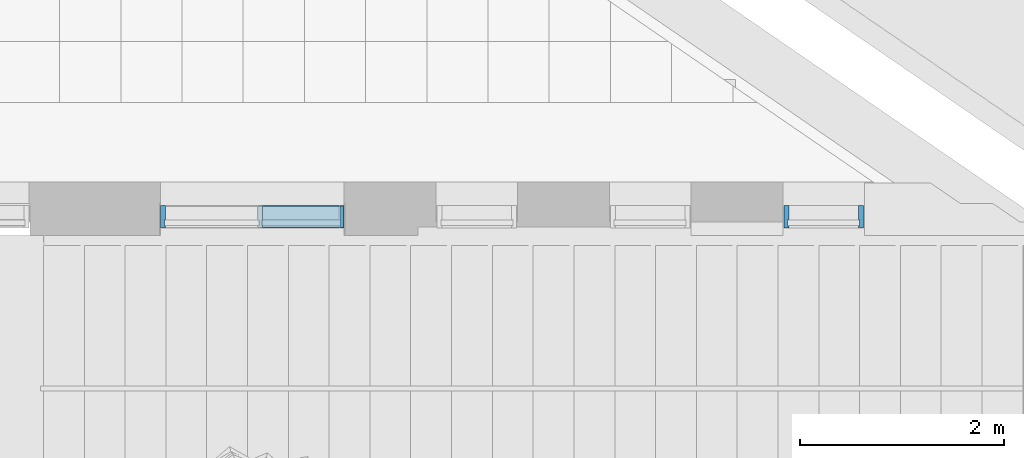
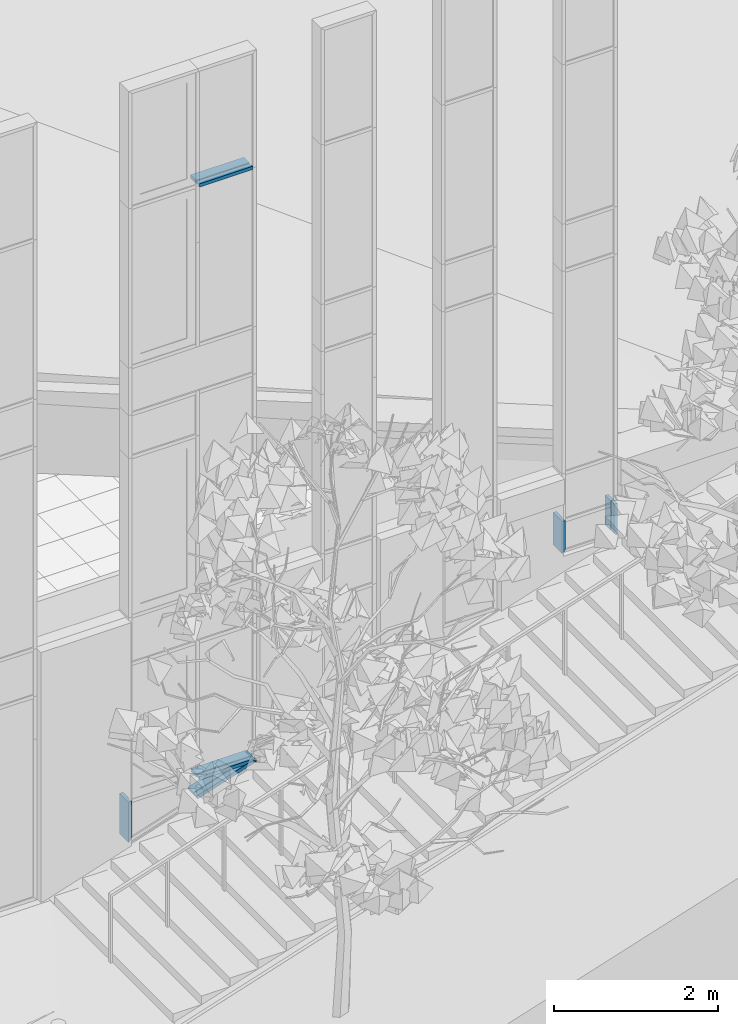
# One storey, part 92 of 246: 7 members, 2 elements without a shape of their own.
"""IFC2X3 building model written with IfcOpenShell, lengths in millimetres."""

from ifc_helpers import new_model, entity, si_unit, converted_unit, derived_unit, money_unit, direction, frame, origin_with_axes, place, context, subcontext, project, spatial, faceted_brep, material, type_object, element, aggregate, save


model = new_model("IFC2X3")

# Units and contexts
model_context = context("Model", 3, precision=0.01, world=origin_with_axes(), true_north=direction((0.0, 1.0)))
body_context = subcontext(model_context, "Body", "Model", "MODEL_VIEW")
ifc_project = project(units=[si_unit("LENGTHUNIT", "METRE", prefix="MILLI"), si_unit("AREAUNIT", "SQUARE_METRE"), si_unit("VOLUMEUNIT", "CUBIC_METRE"), converted_unit("PLANEANGLEUNIT", "DEGREE", entity("IfcPlaneAngleMeasure", 0.0174532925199), si_unit("PLANEANGLEUNIT", "RADIAN"), dimensions=[0, 0, 0, 0, 0, 0, 0]), si_unit("SOLIDANGLEUNIT", "STERADIAN"), money_unit("EUR"), converted_unit("TIMEUNIT", "Year", entity("IfcTimeMeasure", 31556926.0), si_unit("TIMEUNIT", "SECOND"), dimensions=[0, 0, 1, 0, 0, 0, 0]), si_unit("MASSUNIT", "GRAM", prefix="KILO"), si_unit("THERMODYNAMICTEMPERATUREUNIT", "DEGREE_CELSIUS"), si_unit("LUMINOUSINTENSITYUNIT", "LUMEN"), si_unit("ENERGYUNIT", "JOULE", prefix="MEGA"), derived_unit("THERMALCONDUCTANCEUNIT", [(si_unit("POWERUNIT", "WATT"), 1), (si_unit("LENGTHUNIT", "METRE"), -1), (si_unit("THERMODYNAMICTEMPERATUREUNIT", "KELVIN"), -1)]), derived_unit("SPECIFICHEATCAPACITYUNIT", [(si_unit("ENERGYUNIT", "JOULE"), 1), (si_unit("MASSUNIT", "GRAM", prefix="KILO"), -1), (si_unit("THERMODYNAMICTEMPERATUREUNIT", "KELVIN"), -1)]), derived_unit("MASSDENSITYUNIT", [(si_unit("MASSUNIT", "GRAM", prefix="KILO"), 1), (si_unit("VOLUMEUNIT", "CUBIC_METRE"), -1)])], contexts=[model_context])

# Site, building, storey
site_placement = place(None, origin_with_axes())
site = spatial("IfcSite", under=ifc_project, at=site_placement, Name="L.Koidula tn 11b", CompositionType="ELEMENT")
building_placement = place(site_placement, origin_with_axes())
building = spatial("IfcBuilding", under=site, at=building_placement, Name="Rakvere Riigigümnaasium", CompositionType="ELEMENT")
storey_placement = place(building_placement, origin_with_axes())
storey = spatial("IfcBuildingStorey", under=building, at=storey_placement, Name="1.korrus 0,00", CompositionType="ELEMENT", Elevation=0.0)

# Curtain wall, member
curtain_wall_type = type_object("IfcCurtainWallType", Name="Curtain Wall Type", PredefinedType="NOTDEFINED")
curtain_wall_1_placement = place(storey_placement, frame((96030.936158, 5111.45334637, 394.620798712), z_axis=(0.0, 0.0, 1.0), x_axis=(1.0, 0.0, 0.0)))
curtain_wall_1 = element("IfcCurtainWall", 1, at=curtain_wall_1_placement, inside=storey, type_object=curtain_wall_type, Name="KLF-05-2C")
ifc_material = material(Name="Alumiiniumprofiil (RAL 7021)")
member_type_1 = type_object("IfcMemberType", Name="Transom Frame 50 x 222", PredefinedType="MULLION")
member_1_placement = place(curtain_wall_1_placement, frame((644.063960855, 0.0, 9445.37919319), z_axis=(1.0, 0.0, 0.0), x_axis=(0.0, 0.0, 1.0)))
member_1 = element("IfcMember", 2, at=member_1_placement, type_object=member_type_1, material=ifc_material, Name="KLF-05-9C-Profiilid", ObjectType="MULLION", context=body_context, shape_type="Brep", body=[
    faceted_brep([(-12.0, -32.5, 775.000113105), (-25.0, -32.5, 775.000113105), (-25.0, -169.0, 775.000112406), (25.0, -169.0, 775.000112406), (25.0, -32.5, 775.000113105), (12.0, -32.5, 775.000113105), (12.0, 32.5, 775.000113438), (25.0, 32.5, 775.000113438), (25.0, 53.0, 775.000113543), (-25.0, 53.0, 775.000113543), (-25.0, 32.5, 775.000113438), (-12.0, 32.5, 775.000113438), (-12.0, -32.5, 25.0), (-25.0, -32.5, 25.0), (-25.0, -169.0, 25.0), (25.0, -169.0, 25.0), (25.0, -32.5, 25.0), (12.0, -32.5, 25.0), (12.0, 32.5, 25.0), (25.0, 32.5, 25.0), (25.0, 53.0, 25.0), (-25.0, 53.0, 25.0), (-25.0, 32.5, 25.0), (-12.0, 32.5, 25.0)], [[[0, 1, 2, 3, 4, 5, 6, 7, 8, 9, 10, 11]], [[1, 0, 12, 13]], [[1, 13, 14, 2]], [[2, 14, 15, 3]], [[4, 3, 15, 16]], [[4, 16, 17, 5]], [[5, 17, 18, 6]], [[7, 6, 18, 19]], [[19, 20, 8, 7]], [[8, 20, 21, 9]], [[22, 10, 9, 21]], [[11, 10, 22, 23]], [[0, 11, 23, 12]], [[23, 22, 21, 20, 19, 18, 17, 16, 15, 14, 13, 12]]]),
])

# Curtain wall, members
curtain_wall_2_placement = place(storey_placement, frame((102199.946081, 5111.65323731, 2560.0), z_axis=(0.0, 0.0, 1.0), x_axis=(1.0, 0.0, 0.0)))
curtain_wall_2 = element("IfcCurtainWall", 3, at=curtain_wall_2_placement, inside=storey, type_object=curtain_wall_type, Name="KLF-05-4A3")
member_type_2 = type_object("IfcMemberType", Name="Boundary Frame 50 x 222", PredefinedType="MULLION")
member_2_placement = place(curtain_wall_2_placement, frame((-389.999808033, 0.0451050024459, 485.0), z_axis=(0.0, 0.0, -1.0), x_axis=(0.999999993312, -0.00011565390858, 0.0)))
member_2 = element("IfcMember", 4, at=member_2_placement, type_object=member_type_2, material=ifc_material, Name="KLF-05-9A-Profiilid", ObjectType="MULLION", context=body_context, shape_type="Brep", body=[
    faceted_brep([(37.0, -32.5, 448.0), (37.0, 32.5, 448.0), (50.0, 32.5, 435.0), (50.0, 53.0, 435.0), (0.0, 53.0, 485.0), (0.0, -169.0, 485.0), (50.0, -169.0, 435.0), (50.0, -32.5, 435.0), (37.0, -32.5, 0.0), (37.0, 32.5, 0.0), (50.0, 32.5, 0.0), (50.0, 53.0, 0.0), (0.0, 53.0, 0.0), (0.0, -169.0, 0.0), (50.0, -169.0, 0.0), (50.0, -32.5, 0.0)], [[[0, 1, 2, 3, 4, 5, 6, 7]], [[1, 0, 8, 9]], [[10, 2, 1, 9]], [[2, 10, 11, 3]], [[12, 4, 3, 11]], [[13, 5, 4, 12]], [[14, 6, 5, 13]], [[15, 7, 6, 14]], [[0, 7, 15, 8]], [[8, 15, 14, 13, 12, 11, 10, 9]]]),
])
member_3_placement = place(curtain_wall_2_placement, frame((389.999808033, -0.0451050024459, 0.0), z_axis=(0.0, 0.0, 1.0), x_axis=(-0.999999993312, 0.00011565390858, 0.0)))
member_3 = element("IfcMember", 5, at=member_3_placement, type_object=member_type_2, material=ifc_material, Name="KLF-05-1A-Profiilid", ObjectType="MULLION", context=body_context, shape_type="Brep", body=[
    faceted_brep([(37.0, -32.5, 485.0), (37.0, 32.5, 485.0), (50.0, 32.5, 485.0), (50.0, 53.0, 485.0), (0.0, 53.0, 485.0), (0.0, -169.0, 485.0), (50.0, -169.0, 485.0), (50.0, -32.5, 485.0), (37.0, -32.5, 37.0), (37.0, 32.5, 37.0), (50.0, 32.5, 50.0), (50.0, 53.0, 50.0), (0.0, 53.0, 0.0), (0.0, -169.0, 0.0), (50.0, -169.0, 50.0), (50.0, -32.5, 50.0)], [[[0, 1, 2, 3, 4, 5, 6, 7]], [[1, 0, 8, 9]], [[10, 2, 1, 9]], [[2, 10, 11, 3]], [[4, 3, 11, 12]], [[5, 4, 12, 13]], [[6, 5, 13, 14]], [[15, 7, 6, 14]], [[0, 7, 15, 8]], [[8, 15, 14, 13, 12, 11, 10, 9]]]),
])
aggregate(curtain_wall_2, [member_2, member_3])

# Member
member_4_placement = place(curtain_wall_1_placement, frame((-330.936039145, 0.0, 7.49989885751e-05), z_axis=(0.0, 0.0, 1.0), x_axis=(-1.0, 0.0, 0.0)))
member_4 = element("IfcMember", 6, at=member_4_placement, type_object=member_type_2, material=ifc_material, Name="KLF-05-1C-Profiilid", ObjectType="MULLION", context=body_context, shape_type="Brep", body=[
    faceted_brep([(-37.0, -32.5, 605.379118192), (-50.0, -32.5, 605.379118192), (-50.0, -169.0, 605.379118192), (0.0, -169.0, 605.379118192), (0.0, 53.0, 605.379118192), (-50.0, 53.0, 605.379118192), (-50.0, 32.5, 605.379118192), (-37.0, 32.5, 605.379118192), (-37.0, -32.5, 50.7822337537), (-50.0, -32.5, 68.6246402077), (-50.0, -169.0, 68.6246402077), (0.0, -169.0, 0.0), (0.0, 53.0, 0.0), (-50.0, 53.0, 68.6246402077), (-50.0, 32.5, 68.6246402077), (-37.0, 32.5, 50.7822337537)], [[[0, 1, 2, 3, 4, 5, 6, 7]], [[0, 8, 9, 1]], [[9, 10, 2, 1]], [[2, 10, 11, 3]], [[3, 11, 12, 4]], [[4, 12, 13, 5]], [[6, 5, 13, 14]], [[14, 15, 7, 6]], [[7, 15, 8, 0]], [[8, 15, 14, 13, 12, 11, 10, 9]]]),
])

member_5_placement = place(curtain_wall_1_placement, frame((1469.06390875, 0.0, 579.502562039), z_axis=(5.92115560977e-06, 0.0, 0.999999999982), x_axis=(-0.999999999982, 0.0, 5.92115560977e-06)))
member_5 = element("IfcMember", 7, at=member_5_placement, type_object=member_type_2, material=ifc_material, Name="KLF-05-4C-Profiilid", ObjectType="MULLION", context=body_context, shape_type="Brep", body=[
    faceted_brep([(0.0, 53.0, 0.0), (0.0, 53.0, 25.8767791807), (35.5159191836, 53.0, 25.8767791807), (0.0, -169.0, 0.0), (0.0, -169.0, 25.8767791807), (35.5159191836, -169.0, 25.8767791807)], [[[0, 1, 2]], [[3, 4, 1, 0]], [[2, 1, 4, 5]], [[2, 5, 3, 0]], [[5, 4, 3]]]),
])

member_6_placement = place(curtain_wall_1_placement, frame((644.063960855, 0.0, 313.897197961), z_axis=(0.951884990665, 0.0, 0.306455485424), x_axis=(-0.306455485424, 0.0, 0.951884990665)))
member_6 = element("IfcMember", 8, at=member_6_placement, type_object=member_type_2, material=ifc_material, Name="KLF-05-3C-Profiilid", ObjectType="MULLION", context=body_context, shape_type="Brep", body=[
    faceted_brep([(37.0, -32.5, 839.743213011), (37.0, 32.5, 839.743213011), (50.0, 32.5, 830.271456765), (50.0, 53.0, 830.271456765), (0.0, 53.0, 866.70128848), (0.0, -169.0, 866.70128848), (50.0, -169.0, 830.271456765), (50.0, -32.5, 830.271456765), (37.0, -32.5, -3.37622285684e-06), (37.0, 32.5, -3.37622285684e-06), (50.0, 32.5, -3.37622291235e-06), (50.0, 53.0, -3.37622291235e-06), (0.0, 53.0, -3.37622291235e-06), (0.0, -169.0, -3.37622291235e-06), (50.0, -169.0, -3.37622291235e-06), (50.0, -32.5, -3.37622291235e-06)], [[[0, 1, 2, 3, 4, 5, 6, 7]], [[1, 0, 8, 9]], [[10, 2, 1, 9]], [[2, 10, 11, 3]], [[12, 4, 3, 11]], [[13, 5, 4, 12]], [[14, 6, 5, 13]], [[15, 7, 6, 14]], [[0, 7, 15, 8]], [[8, 15, 14, 13, 12, 11, 10, 9]]]),
])

member_type_3 = type_object("IfcMemberType", Name="50 x 208", PredefinedType="MULLION")
member_7_placement = place(curtain_wall_1_placement, frame((644.063960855, 0.0, 605.379193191), z_axis=(1.0, 0.0, 0.0), x_axis=(0.0, 0.0, 1.0)))
member_7 = element("IfcMember", 9, at=member_7_placement, type_object=member_type_3, material=ifc_material, Name="KLF-40", ObjectType="MULLION", context=body_context, shape_type="Brep", body=[
    faceted_brep([(-12.0, -27.0, 818.749934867), (-25.0, -27.0, 818.749934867), (-25.0, -160.0, 818.749934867), (25.0, -160.0, 818.749934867), (25.0, -27.0, 818.749934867), (12.0, -27.0, 818.749934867), (12.0, 27.0, 818.749934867), (25.0, 27.0, 818.749934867), (25.0, 48.0, 818.749934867), (-25.0, 48.0, 818.749934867), (-25.0, 27.0, 818.749934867), (-12.0, 27.0, 818.749934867), (-12.0, -27.0, 25.0), (-25.0, -27.0, 25.0), (-25.0, -160.0, 25.0), (25.0, -160.0, 25.0), (25.0, -27.0, 25.0), (12.0, -27.0, 25.0), (12.0, 27.0, 25.0), (25.0, 27.0, 25.0), (25.0, 48.0, 25.0), (-25.0, 48.0, 25.0), (-25.0, 27.0, 25.0), (-12.0, 27.0, 25.0)], [[[0, 1, 2, 3, 4, 5, 6, 7, 8, 9, 10, 11]], [[1, 0, 12, 13]], [[1, 13, 14, 2]], [[2, 14, 15, 3]], [[4, 3, 15, 16]], [[4, 16, 17, 5]], [[5, 17, 18, 6]], [[7, 6, 18, 19]], [[19, 20, 8, 7]], [[8, 20, 21, 9]], [[22, 10, 9, 21]], [[11, 10, 22, 23]], [[0, 11, 23, 12]], [[23, 22, 21, 20, 19, 18, 17, 16, 15, 14, 13, 12]]]),
])

aggregate(curtain_wall_1, [member_7, member_4, member_1, member_5, member_6])

save(model, "model.ifc")
